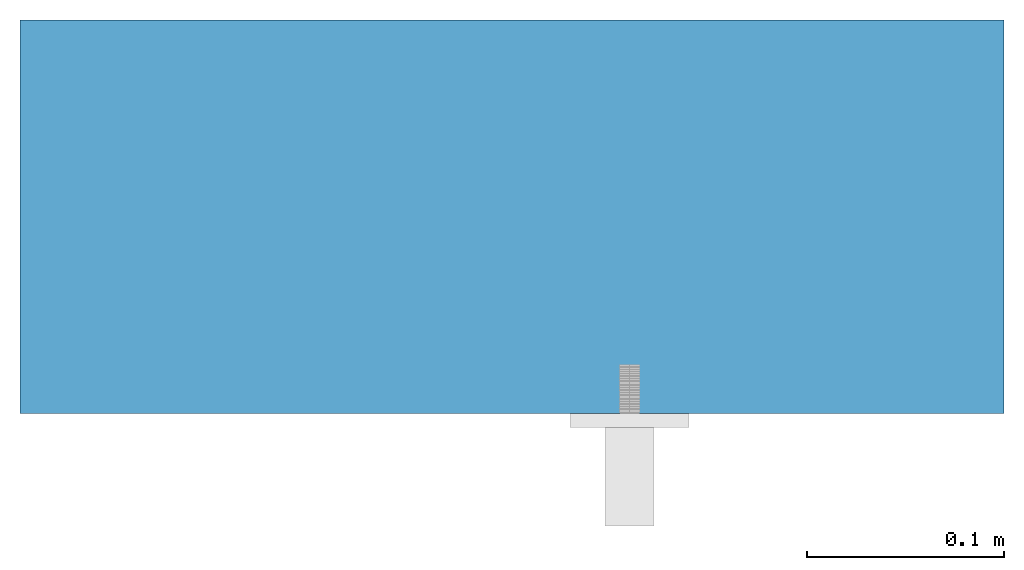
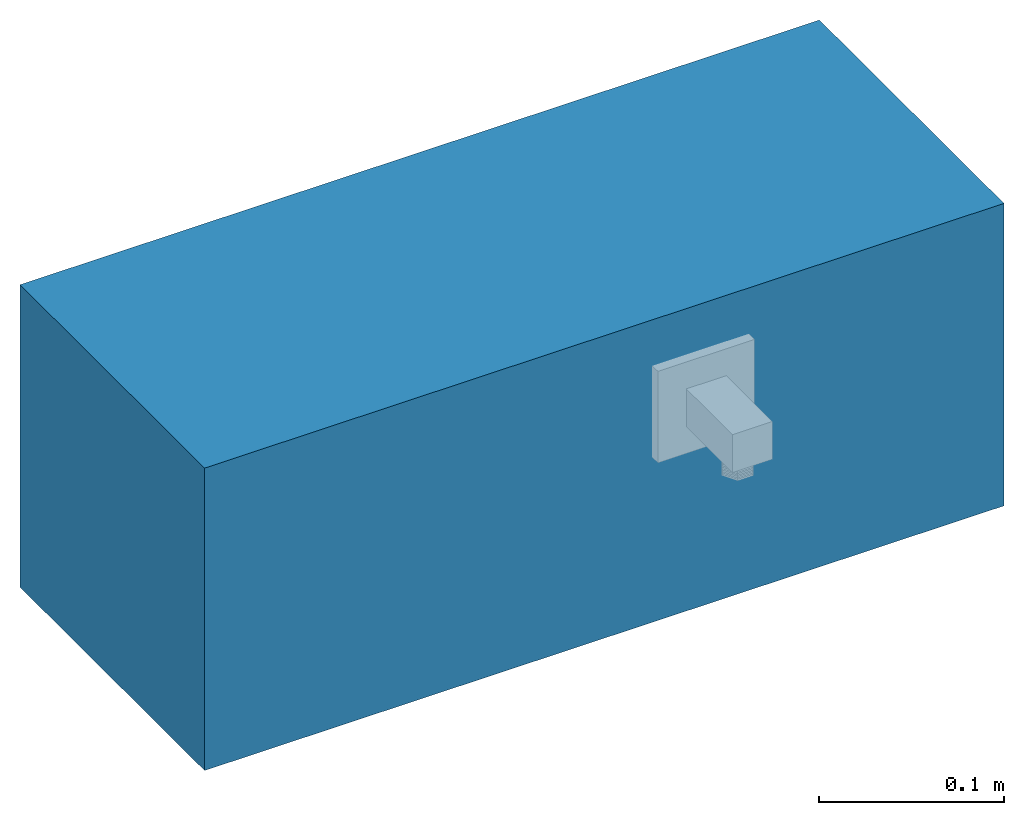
# One storey, incomplete: 1 wall.
"""IFC2X3 building model written with IfcOpenShell, lengths in millimetres."""

from ifc_helpers import new_model, entity, si_unit, converted_unit, derived_unit, direction, frame, frame_2d, origin, place, context, subcontext, project, spatial, rectangle, extrude, material, layer, layer_set, layer_usage, type_object, element, save


model = new_model("IFC2X3")

# Units and contexts
model_context = context("Model", 3, precision=0.01, world=origin(), true_north=direction((6.12303176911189e-17, 1.0)))
body_context = subcontext(model_context, "Body", "Model", "MODEL_VIEW")
ifc_project = project(units=[si_unit("LENGTHUNIT", "METRE", prefix="MILLI"), si_unit("AREAUNIT", "SQUARE_METRE"), si_unit("VOLUMEUNIT", "CUBIC_METRE"), converted_unit("PLANEANGLEUNIT", "DEGREE", entity("IfcRatioMeasure", 0.0174532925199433), si_unit("PLANEANGLEUNIT", "RADIAN"), dimensions=[0, 0, 0, 0, 0, 0, 0]), si_unit("MASSUNIT", "GRAM", prefix="KILO"), derived_unit("MASSDENSITYUNIT", [(si_unit("MASSUNIT", "GRAM", prefix="KILO"), 1), (si_unit("LENGTHUNIT", "METRE"), -3)]), si_unit("TIMEUNIT", "SECOND"), si_unit("FREQUENCYUNIT", "HERTZ"), si_unit("THERMODYNAMICTEMPERATUREUNIT", "DEGREE_CELSIUS"), derived_unit("THERMALTRANSMITTANCEUNIT", [(si_unit("MASSUNIT", "GRAM", prefix="KILO"), 1), (si_unit("THERMODYNAMICTEMPERATUREUNIT", "KELVIN"), -1), (si_unit("TIMEUNIT", "SECOND"), -3)]), derived_unit("VOLUMETRICFLOWRATEUNIT", [(si_unit("LENGTHUNIT", "METRE"), 3), (si_unit("TIMEUNIT", "SECOND"), -1)]), si_unit("ELECTRICCURRENTUNIT", "AMPERE"), si_unit("ELECTRICVOLTAGEUNIT", "VOLT"), si_unit("POWERUNIT", "WATT"), si_unit("FORCEUNIT", "NEWTON", prefix="KILO"), si_unit("ILLUMINANCEUNIT", "LUX"), si_unit("LUMINOUSFLUXUNIT", "LUMEN"), si_unit("LUMINOUSINTENSITYUNIT", "CANDELA"), derived_unit("USERDEFINED", [(si_unit("MASSUNIT", "GRAM", prefix="KILO"), -1), (si_unit("LENGTHUNIT", "METRE"), -2), (si_unit("TIMEUNIT", "SECOND"), 3), (si_unit("LUMINOUSFLUXUNIT", "LUMEN"), 1)]), derived_unit("LINEARVELOCITYUNIT", [(si_unit("LENGTHUNIT", "METRE"), 1), (si_unit("TIMEUNIT", "SECOND"), -1)]), si_unit("PRESSUREUNIT", "PASCAL"), derived_unit("USERDEFINED", [(si_unit("LENGTHUNIT", "METRE"), -2), (si_unit("MASSUNIT", "GRAM", prefix="KILO"), 1), (si_unit("TIMEUNIT", "SECOND"), -2)])], contexts=[model_context])

# Site, building, storey
site_placement = place(None, origin())
site = spatial("IfcSite", under=ifc_project, at=site_placement, Name="Default", CompositionType="ELEMENT")
building_placement = place(site_placement, origin())
building = spatial("IfcBuilding", under=site, at=building_placement, CompositionType="ELEMENT")
storey_placement = place(building_placement, origin())
storey = spatial("IfcBuildingStorey", under=building, at=storey_placement, Name="Level 1", CompositionType="ELEMENT", Elevation=0.0)

# Wall
ifc_material = material(Name="Default Wall")
ifc_layer = layer(ifc_material, 200.0)
ifc_layer_set = layer_set([ifc_layer], Name="Basic Wall:Generic - 200mm")
ifc_layer_usage = layer_usage(ifc_layer_set, "AXIS2", "NEGATIVE", 100.0)
wall_type = type_object("IfcWallType", Name="Basic Wall:Generic - 200mm", PredefinedType="STANDARD", material=ifc_layer_set)
wall_placement = place(storey_placement, frame((-634.94088304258, -160.973597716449, 0.0)))
element("IfcWallStandardCase", 1, at=wall_placement, inside=storey, type_object=wall_type, material=ifc_layer_usage, Name="Basic Wall:Generic - 200mm", ObjectType="Basic Wall:Generic - 200mm:398", context=body_context, shape_type="SweptSolid", body=[
    extrude(rectangle(XDim=500.0, YDim=200.0, at=frame_2d((250.0, -7.105427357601e-15), x_axis=(-1.0, 0.0))), origin(), (0.0, 0.0, 1.0), 200.0),
])

save(model, "model.ifc")
